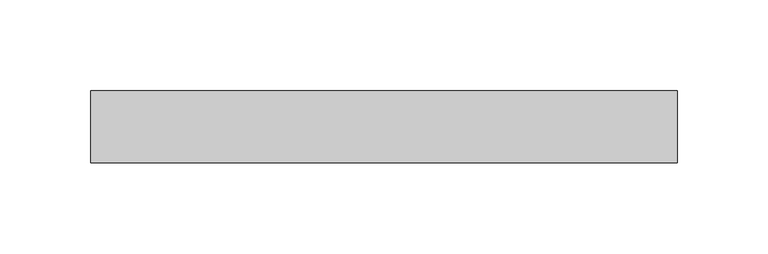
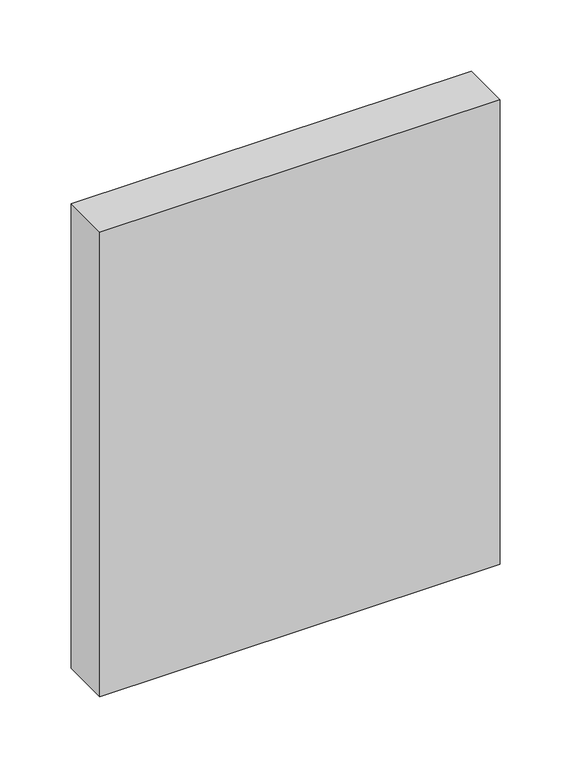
"""IFC4 building model written with IfcOpenShell, lengths in millimetres: plate geometry, Panneau système vide : Epaiss. 4cm."""

import ifcopenshell
import ifcopenshell.guid

model = None  # the IFC model being written
_history = None  # IfcOwnerHistory: only IFC2X3 demands one
_inside = {}  # id of a spatial element -> (the spatial element, [elements in it])
_under = {}  # id of a project, library or spatial element -> (it, [spatial elements below it])
_declared = {}  # id of a project -> (the project, [libraries it declares])
_typed = {}  # id of a type object -> (the type object, [elements of that type])
_made_of = {}  # id of a material, layer set ... -> (it, [elements and type objects made of it])


def new_model(schema):
    """Start an empty IFC model of exactly this schema.

    Asked for "IFC4X3", IfcOpenShell would pick the latest addendum, in which some entities
    have other attributes; the version numbers below select the first issue.
    IFC2X3 requires an IfcOwnerHistory on every rooted entity: one is made here for all.
    """
    global model, _history
    if schema == "IFC4X3":
        model = ifcopenshell.file(schema_version=(4, 3, 0, 0))
    else:
        model = ifcopenshell.file(schema=schema)
    _inside.clear()
    _under.clear()
    _declared.clear()
    _typed.clear()
    _made_of.clear()
    _history = None
    if model.schema == "IFC2X3":
        org = make("IfcOrganization", Name="unknown")
        user = make(
            "IfcPersonAndOrganization",
            ThePerson=make("IfcPerson", FamilyName="unknown"),
            TheOrganization=org,
        )
        app = make(
            "IfcApplication",
            ApplicationDeveloper=org,
            Version="unknown",
            ApplicationFullName="unknown",
            ApplicationIdentifier="unknown",
        )
        _history = make(
            "IfcOwnerHistory",
            OwningUser=user,
            OwningApplication=app,
            ChangeAction="ADDED",
            CreationDate=0,
        )
    return model


def make(cls, **values):
    """One entity of the class cls with the attributes given. An attribute that is None is left unset."""
    return model.create_entity(
        cls, **{name: value for name, value in values.items() if value is not None}
    )


def rooted(cls, **values):
    """An entity with a GlobalId (a new one), such as an element, a storey or a relation."""
    return make(cls, GlobalId=ifcopenshell.guid.new(), OwnerHistory=_history, **values)


def si_unit(unit_type, name, prefix=None):
    """IfcSIUnit, for example si_unit("LENGTHUNIT", "METRE", prefix="MILLI")."""
    return make("IfcSIUnit", UnitType=unit_type, Prefix=prefix, Name=name)


def assignment(units):
    """IfcUnitAssignment: the units of a project."""
    return None if units is None else make("IfcUnitAssignment", Units=units)


def point(xyz):
    """IfcCartesianPoint."""
    return None if xyz is None else make("IfcCartesianPoint", Coordinates=xyz)


def direction(xyz):
    """IfcDirection."""
    return None if xyz is None else make("IfcDirection", DirectionRatios=xyz)


def frame(location, z_axis=None, x_axis=None):
    """IfcAxis2Placement3D, a coordinate frame: its origin and axes. An axis left out is left unset."""
    return make(
        "IfcAxis2Placement3D",
        Location=point(location),
        Axis=direction(z_axis),
        RefDirection=direction(x_axis),
    )


def origin():
    """The frame at (0, 0, 0) with its axes left unset."""
    return frame((0.0, 0.0, 0.0))


def origin_with_axes():
    """The frame at (0, 0, 0) with the z axis (0, 0, 1) and the x axis (1, 0, 0) written out."""
    return frame((0.0, 0.0, 0.0), z_axis=(0.0, 0.0, 1.0), x_axis=(1.0, 0.0, 0.0))


def place(relative_to, where):
    """IfcLocalPlacement: puts the frame where relative to a parent placement (None: the world)."""
    return make(
        "IfcLocalPlacement", PlacementRelTo=relative_to, RelativePlacement=where
    )


def context(
    kind, dimensions, precision=None, world=None, true_north=None, identifier=None
):
    """IfcGeometricRepresentationContext, for example the 3D "Model" context."""
    return make(
        "IfcGeometricRepresentationContext",
        ContextIdentifier=identifier,
        ContextType=kind,
        CoordinateSpaceDimension=dimensions,
        Precision=precision,
        WorldCoordinateSystem=world,
        TrueNorth=true_north,
    )


def project(units=None, contexts=None):
    """IfcProject with its units and contexts."""
    return rooted(
        "IfcProject",
        Name="project",
        RepresentationContexts=contexts,
        UnitsInContext=assignment(units),
    )


def spatial(cls, under=None, at=None, **own):
    """A site, building, storey or space (cls), placed at a placement, below another one or the project."""
    s = rooted(cls, ObjectPlacement=at, **own)
    if under is not None:
        _under.setdefault(under.id(), (under, []))[1].append(s)
    return s


def polyline(points):
    """IfcPolyline through the points."""
    return make("IfcPolyline", Points=[point(p) for p in points])


def outline(outer, holes=None, kind="AREA"):
    """IfcArbitraryClosedProfileDef: a profile drawn as a closed curve; with holes, ...WithVoids."""
    if holes is None:
        return make("IfcArbitraryClosedProfileDef", ProfileType=kind, OuterCurve=outer)
    return make(
        "IfcArbitraryProfileDefWithVoids",
        ProfileType=kind,
        OuterCurve=outer,
        InnerCurves=holes,
    )


def extrude(swept, where, along, depth):
    """IfcExtrudedAreaSolid: the profile swept, set in the frame where, extruded along a direction by depth."""
    return make(
        "IfcExtrudedAreaSolid",
        SweptArea=swept,
        Position=where,
        ExtrudedDirection=direction(along),
        Depth=depth,
    )


def shape(context_of_items, identifier, shape_type, items):
    """IfcShapeRepresentation: the items that make up one representation, for example the "Body"."""
    return make(
        "IfcShapeRepresentation",
        ContextOfItems=context_of_items,
        RepresentationIdentifier=identifier,
        RepresentationType=shape_type,
        Items=items,
    )


def source(mapping_origin, context_of_items, identifier, shape_type, items):
    """IfcRepresentationMap: a shape defined once, which mapped items show again and again."""
    return make(
        "IfcRepresentationMap",
        MappingOrigin=mapping_origin,
        MappedRepresentation=shape(context_of_items, identifier, shape_type, items),
    )


def transform(
    local_origin,
    x_axis=None,
    y_axis=None,
    z_axis=None,
    scale=None,
    scale2=None,
    scale3=None,
    uniform=True,
):
    """IfcCartesianTransformationOperator3D, or its non-uniform kind. x_axis, y_axis, z_axis: its Axis1, 2, 3."""
    if uniform:
        return make(
            "IfcCartesianTransformationOperator3D",
            Axis1=direction(x_axis),
            Axis2=direction(y_axis),
            LocalOrigin=point(local_origin),
            Scale=scale,
            Axis3=direction(z_axis),
        )
    return make(
        "IfcCartesianTransformationOperator3DnonUniform",
        Axis1=direction(x_axis),
        Axis2=direction(y_axis),
        LocalOrigin=point(local_origin),
        Scale=scale,
        Axis3=direction(z_axis),
        Scale2=scale2,
        Scale3=scale3,
    )


def mapped(mapping_source, mapping_target):
    """IfcMappedItem: shows the shape of a source again, moved by a transform."""
    return make(
        "IfcMappedItem", MappingSource=mapping_source, MappingTarget=mapping_target
    )


def made_of(thing, what):
    """Note that an element or type object is made of a material, layer set ...; save() writes the relation."""
    if what is not None:
        _made_of.setdefault(what.id(), (what, []))[1].append(thing)
    return thing


def element(
    cls,
    number,
    at=None,
    inside=None,
    cuts=None,
    type_object=None,
    material=None,
    context=None,
    identifier="Body",
    shape_type=None,
    held_by="IfcProductDefinitionShape",
    body=None,
    shapes=None,
    **own,
):
    """One element of the class cls, such as IfcWall. Its Tag is "e" and its number.

    at: its placement. inside: the storey or other place that contains it. cuts: it is an
    opening in that element (IfcRelVoidsElement). A single representation is given by context,
    identifier, shape_type and body (its items); several are given by shapes. held_by: the class
    of the entity that holds the representations. save() writes the other relations.
    """
    e = rooted(cls, Tag="e%d" % number, ObjectPlacement=at, **own)
    if body is not None:
        shapes = [shape(context, identifier, shape_type, body)]
    if shapes is not None:
        e.Representation = make(held_by, Representations=shapes)
    if inside is not None:
        _inside.setdefault(inside.id(), (inside, []))[1].append(e)
    if cuts is not None:
        rooted(
            "IfcRelVoidsElement", RelatingBuildingElement=cuts, RelatedOpeningElement=e
        )
    if type_object is not None:
        _typed.setdefault(type_object.id(), (type_object, []))[1].append(e)
    return made_of(e, material)


def aggregate(whole, parts):
    """IfcRelAggregates: a whole, such as a stair, and the parts it consists of."""
    return rooted("IfcRelAggregates", RelatingObject=whole, RelatedObjects=parts)


def save(model, path):
    """Write the relations noted so far, then the file.

    IfcRelAggregates (storeys below a building ...), IfcRelContainedInSpatialStructure (elements
    in a storey), IfcRelDefinesByType, IfcRelAssociatesMaterial and IfcRelDeclares: one each for
    every whole, place, type object, material and project.
    """
    for whole, parts in _under.values():
        aggregate(whole, parts)
    for where, things in _inside.values():
        rooted(
            "IfcRelContainedInSpatialStructure",
            RelatedElements=things,
            RelatingStructure=where,
        )
    for kind, things in _typed.values():
        rooted("IfcRelDefinesByType", RelatedObjects=things, RelatingType=kind)
    for what, things in _made_of.values():
        rooted("IfcRelAssociatesMaterial", RelatedObjects=things, RelatingMaterial=what)
    for by, libraries in _declared.values():
        rooted("IfcRelDeclares", RelatingContext=by, RelatedDefinitions=libraries)
    model.write(path)


def plate_eeb1a24b(model_context):
    return source(origin(), model_context, "Body", "SweptSolid", [
        extrude(outline(polyline([(162.15, -20.0), (-162.15, -20.0), (-162.15, 20.0), (162.15, 20.0), (162.15, -20.0)])), origin_with_axes(), (0.0, 0.0, 1.0), 398.0),
    ])


if __name__ == "__main__":
    model = new_model("IFC4")
    model_context = context("Model", 3, world=origin())
    ifc_project = project(units=[si_unit("LENGTHUNIT", "METRE", prefix="MILLI")], contexts=[model_context])
    site = spatial("IfcSite", under=ifc_project)
    building = spatial("IfcBuilding", under=site)
    placement = place(None, origin())
    plate_shape = plate_eeb1a24b(model_context)
    element("IfcPlate", 1, ObjectType="Panneau système vide : Epaiss. 4cm", at=placement, inside=building, context=model_context, shape_type="MappedRepresentation", body=[
        mapped(plate_shape, transform((0.0, 0.0, 0.0), x_axis=(1.0, 0.0, 0.0), y_axis=(0.0, 1.0, 0.0), z_axis=(0.0, 0.0, 1.0))),
    ])
    save(model, "model.ifc")
